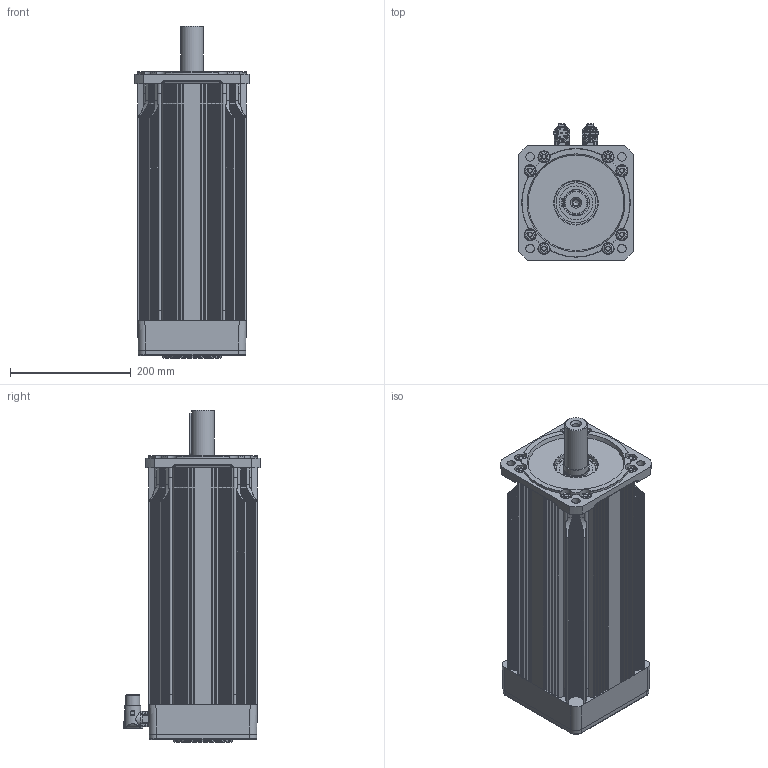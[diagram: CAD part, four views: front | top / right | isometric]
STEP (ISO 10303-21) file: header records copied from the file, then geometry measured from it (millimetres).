
FILE_DESCRIPTION( ( 'Unknown' ), '1' );
FILE_NAME( 'C:/Users/carpi/Desktop/step/Q00840_47.stp', 'Unknown', ( 'Unknown' ), ( 'Unknown' ), 'PSStep 14.0', 'Unknown', ' ' );
FILE_SCHEMA( ( 'AUTOMOTIVE_DESIGN { 1 0 10303 214 1 1 1 1 }' ) );
Length unit declared in the file: millimetre
Products named in the file (35): Assem1; N33801; CUSC_40_90_23_6308_ZZ; N09815; A-Ela 40 P; N11800; DEFDB M  8; DEFDB M  8-oa0; DEFDB M  8-oa1; DEFDB M  8-oa2; DEFDB M  8-oa3; DEFDB M  8-oa4; DEFDB M  8-oa5; DEFDB M  8-oa6; Vite a brugola testa cil 8,8 -  M 2,5 x 8; Vite a brugola testa cil 8,8 -  M  5 x 16; CN M23 PAN-SEG AEDC 139 17 pin 90°o SpTcR; CN M23 PAN-POT BEDC 110 4+4 pin 90°o SpTcR; LI-PIA  10x8 x 70; N49800_420; N49800_420-oa7; N49800_420-oa8; N49800_420-oa9; N49800_420-oa10; N49800_420-oa11; N49800_420-oa12; N49800_420-oa13; N01810; N25800_L392
Assembly tree (44 placements, depth 2):
  Assem1
    N33801
    CUSC_40_90_23_6308_ZZ
    CUSC_40_90_23_6308_ZZ
    CUSC_40_90_23_6308_ZZ
    CUSC_40_90_23_6308_ZZ
    CUSC_40_90_23_6308_ZZ
    CUSC_40_90_23_6308_ZZ
    CUSC_40_90_23_6308_ZZ
    N09815
    A-Ela 40 P
    N11800
    DEFDB M  8
    DEFDB M  8-oa0
    DEFDB M  8-oa1
    DEFDB M  8-oa2
    DEFDB M  8-oa3
    DEFDB M  8-oa4
    DEFDB M  8-oa5
    DEFDB M  8-oa6
    Vite a brugola testa cil 8,8 -  M 2,5 x 8  x8
    Vite a brugola testa cil 8,8 -  M  5 x 16  x4
    CN M23 PAN-SEG AEDC 139 17 pin 90°o SpTcR
    CN M23 PAN-POT BEDC 110 4+4 pin 90°o SpTcR
    LI-PIA  10x8 x 70
    N49800_420
    N49800_420-oa7
    N49800_420-oa8
    N49800_420-oa9
    N49800_420-oa10
    N49800_420-oa11
    N49800_420-oa12
    N49800_420-oa13
    N01810
    N25800_L392
Bounding box: 189.97 x 226.43 x 550 mm (x, y, z)
Volume: 4875613.4 mm3; surface area: 1392454.7 mm2
Topology: 44 solids, 45 shells, 2233 faces, 5654 edges, 3571 vertices
Faces by surface type: cylinder 1034, plane 667, bspline 201, cone 142, torus 107, sphere 82
Full cylindrical faces by diameter (mm): 2 x21, 2.013 x8, 2.5 x10, 2.7 x8, 3 x4, 3.242 x1, 3.3 x5, 4.2 x4, 4.7 x8, 5 x8, 5.5 x4, 6.647 x4, 6.8 x8, 7.8 x8, 8 x25, 8.5 x12, 10 x4, 10.2 x1, 13 x1, 14 x4, 17 x2, 17.9 x8, 19.8 x2, 20 x11, 21.3 x2, 23 x2, 24.5 x2, 30 x1, 37.5 x1, 38 x1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
Entity records: 91372 total; most frequent: CARTESIAN_POINT 31398, DIRECTION 9977, ORIENTED_EDGE 9736, EDGE_CURVE 4868, AXIS2_PLACEMENT_3D 4092, VERTEX_POINT 3265, EDGE_LOOP 2562, FACE_OUTER_BOUND 2292
